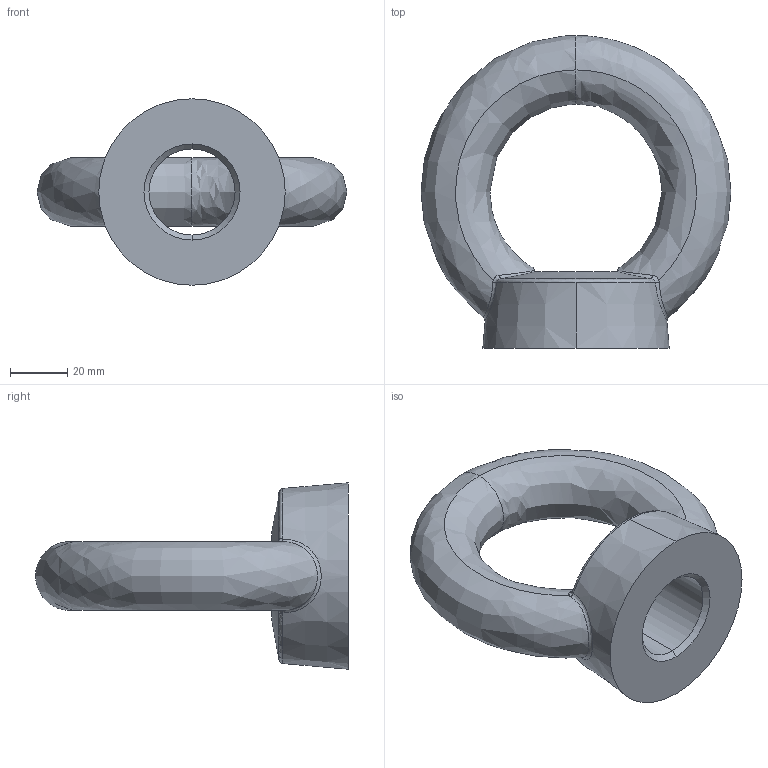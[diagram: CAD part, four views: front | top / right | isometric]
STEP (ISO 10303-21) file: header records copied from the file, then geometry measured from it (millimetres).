
FILE_DESCRIPTION (( 'STEP AP203' ), '1' );
FILE_NAME ('P4041.300-020-ZP .step', '2023-04-16T08:04:04', ( '' ), ( '' ), 'SwSTEP 2.0', 'SolidWorks 2019', '' );
FILE_SCHEMA (( 'CONFIG_CONTROL_DESIGN' ));
Length unit declared in the file: millimetre
Products named in the file (1): P4041.300-020-ZP 
Bounding box: 108 x 109 x 65 mm (x, y, z)
Volume: 154101.7 mm3; surface area: 26833.7 mm2
Topology: 1 solids, 1 shells, 27 faces, 69 edges, 41 vertices
Faces by surface type: bspline 14, cone 7, torus 3, cylinder 2, plane 1
Entity records: 3336 total; most frequent: CARTESIAN_POINT 2710, ORIENTED_EDGE 138, DIRECTION 87, EDGE_CURVE 69, VERTEX_POINT 41, AXIS2_PLACEMENT_3D 40, B_SPLINE_CURVE_WITH_KNOTS 34, EDGE_LOOP 28
